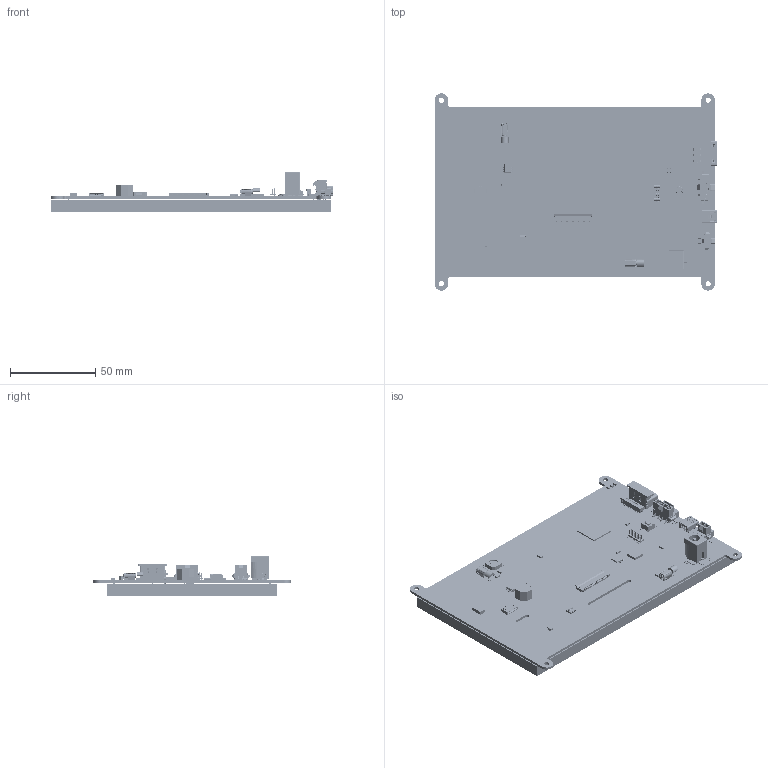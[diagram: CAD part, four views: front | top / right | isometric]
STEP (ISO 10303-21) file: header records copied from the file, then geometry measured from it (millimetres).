
FILE_DESCRIPTION (( 'STEP AP214' ), '1' );
FILE_NAME ('HTT70A-TPR R3.0.2.STEP', '2021-04-06T19:29:49', ( '' ), ( '' ), 'SwSTEP 2.0', 'SolidWorks 2018', '' );
FILE_SCHEMA (( 'AUTOMOTIVE_DESIGN' ));
Length unit declared in the file: millimetre
Products named in the file (4): MOP-TFT800480-70A-TPR; HTT70A-TPR R3.0.2; HTT70A Vert Parts R3.0.2; HTT70_Vert_R3.0.2
Assembly tree (3 placements, depth 2):
  HTT70A-TPR R3.0.2
    HTT70_Vert_R3.0.2
    HTT70A Vert Parts R3.0.2
    MOP-TFT800480-70A-TPR
Bounding box: 166.38 x 116 x 23.01 mm (x, y, z)
Volume: 138583.3 mm3; surface area: 85306.4 mm2
Topology: 2 solids, 192 shells, 13870 faces, 38586 edges, 24969 vertices
Faces by surface type: plane 9725, cylinder 2654, bspline 1413, cone 38, sphere 30, torus 10
Entity records: 608882 total; most frequent: CARTESIAN_POINT 107457, ORIENTED_EDGE 77130, DIRECTION 65012, EDGE_CURVE 38566, LINE 29436, VECTOR 29436, VERTEX_POINT 24961, AXIS2_PLACEMENT_3D 17788
